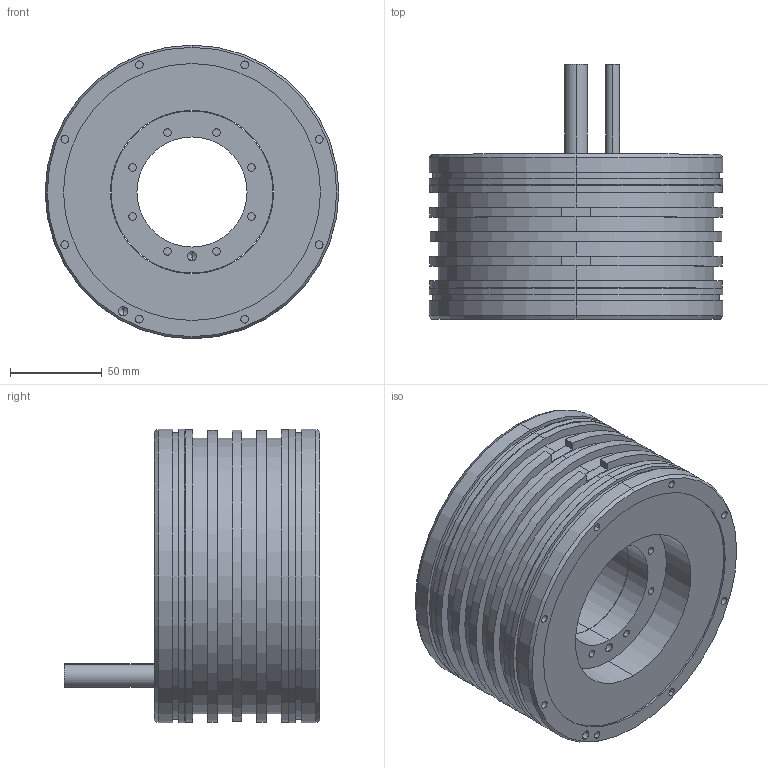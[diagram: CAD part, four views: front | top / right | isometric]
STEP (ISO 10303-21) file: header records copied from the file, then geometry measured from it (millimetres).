
FILE_DESCRIPTION (( 'STEP AP203' ), '1' );
FILE_NAME ('TM-2-15.STEP', '2020-10-20T05:30:25', ( '' ), ( '' ), 'SwSTEP 2.0', 'SolidWorks 2015', '' );
FILE_SCHEMA (( 'CONFIG_CONTROL_DESIGN' ));
Length unit declared in the file: millimetre
Products named in the file (3): TM-2-1X_stator_TM-2-15_stator; TM-2-1X_rotor_TM-2-15_rotor; TM-2-15
Assembly tree (2 placements, depth 2):
  TM-2-15
    TM-2-1X_stator_TM-2-15_stator
    TM-2-1X_rotor_TM-2-15_rotor
Bounding box: 160 x 139 x 160 mm (x, y, z)
Volume: 1310603.6 mm3; surface area: 158375.9 mm2
Topology: 2 solids, 2 shells, 198 faces, 418 edges, 264 vertices
Faces by surface type: cylinder 119, plane 63, cone 16
Entity records: 5645 total; most frequent: DIRECTION 1058, CARTESIAN_POINT 877, ORIENTED_EDGE 820, AXIS2_PLACEMENT_3D 445, EDGE_CURVE 410, VERTEX_POINT 264, EDGE_LOOP 250, CIRCLE 242
